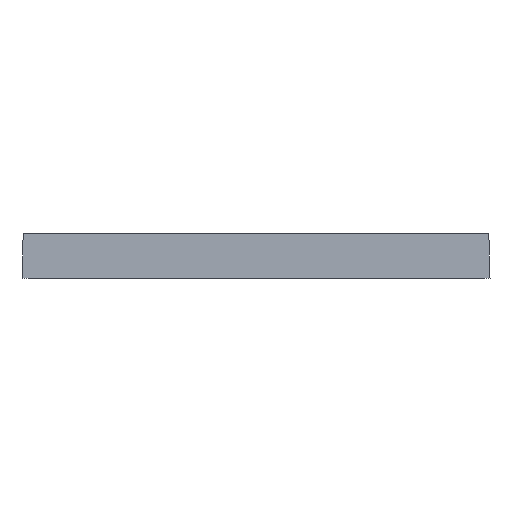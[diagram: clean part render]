
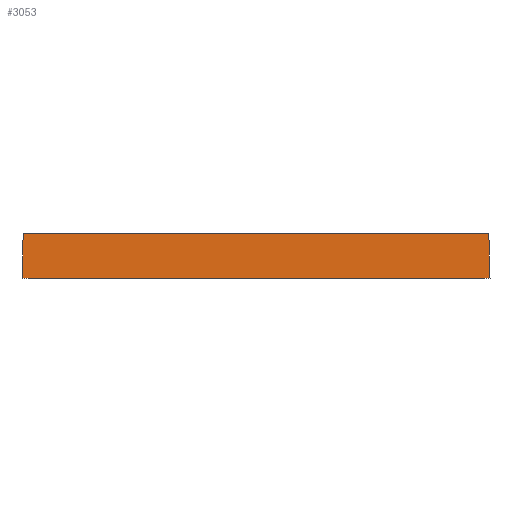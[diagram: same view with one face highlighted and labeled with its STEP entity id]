
A CAD part, front view. The second image highlights one B-rep face of the part: STEP entity #3053.
In plain terms, the highlighted planar face has unit normal (0, -1, 0.026).
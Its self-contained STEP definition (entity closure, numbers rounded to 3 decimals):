
#21 = EDGE_CURVE('',#22,#24,#26,.T.);
#22 = VERTEX_POINT('',#23);
#23 = CARTESIAN_POINT('',(1.047,1.047,40.));
#24 = VERTEX_POINT('',#25);
#25 = CARTESIAN_POINT('',(418.953,1.047,40.));
#26 = SURFACE_CURVE('',#27,(#31,#43),.PCURVE_S1.);
#27 = LINE('',#28,#29);
#28 = CARTESIAN_POINT('',(0.,1.047,40.));
#29 = VECTOR('',#30,1.);
#30 = DIRECTION('',(1.,0.,0.));
#31 = PCURVE('',#32,#37);
#32 = PLANE('',#33);
#33 = AXIS2_PLACEMENT_3D('',#34,#35,#36);
#34 = CARTESIAN_POINT('',(210.,280.,40.));
#35 = DIRECTION('',(0.,0.,1.));
#36 = DIRECTION('',(1.,0.,0.));
#37 = DEFINITIONAL_REPRESENTATION('',(#38),#42);
#38 = LINE('',#39,#40);
#39 = CARTESIAN_POINT('',(-210.,-278.953));
#40 = VECTOR('',#41,1.);
#41 = DIRECTION('',(1.,0.));
#42 = ( GEOMETRIC_REPRESENTATION_CONTEXT(2) 
PARAMETRIC_REPRESENTATION_CONTEXT() REPRESENTATION_CONTEXT('2D SPACE',''
  ) );
#43 = PCURVE('',#44,#49);
#44 = PLANE('',#45);
#45 = AXIS2_PLACEMENT_3D('',#46,#47,#48);
#46 = CARTESIAN_POINT('',(0.,0.,0.));
#47 = DIRECTION('',(0.,1.,-0.026));
#48 = DIRECTION('',(0.,0.026,1.));
#49 = DEFINITIONAL_REPRESENTATION('',(#50),#54);
#50 = LINE('',#51,#52);
#51 = CARTESIAN_POINT('',(40.014,0.));
#52 = VECTOR('',#53,1.);
#53 = DIRECTION('',(0.,1.));
#54 = ( GEOMETRIC_REPRESENTATION_CONTEXT(2) 
PARAMETRIC_REPRESENTATION_CONTEXT() REPRESENTATION_CONTEXT('2D SPACE',''
  ) );
#72 = PLANE('',#73);
#73 = AXIS2_PLACEMENT_3D('',#74,#75,#76);
#74 = CARTESIAN_POINT('',(420.,0.,0.));
#75 = DIRECTION('',(-1.,0.,-0.026));
#76 = DIRECTION('',(-0.026,0.,1.));
#126 = PLANE('',#127);
#127 = AXIS2_PLACEMENT_3D('',#128,#129,#130);
#128 = CARTESIAN_POINT('',(0.,560.,0.));
#129 = DIRECTION('',(1.,0.,-0.026));
#130 = DIRECTION('',(0.026,0.,1.));
#3053 = ADVANCED_FACE('',(#3054),#44,.F.);
#3054 = FACE_BOUND('',#3055,.F.);
#3055 = EDGE_LOOP('',(#3056,#3077,#3078,#3099));
#3056 = ORIENTED_EDGE('',*,*,#3057,.T.);
#3057 = EDGE_CURVE('',#3058,#22,#3060,.T.);
#3058 = VERTEX_POINT('',#3059);
#3059 = CARTESIAN_POINT('',(0.,0.,0.));
#3060 = SURFACE_CURVE('',#3061,(#3065,#3071),.PCURVE_S1.);
#3061 = LINE('',#3062,#3063);
#3062 = CARTESIAN_POINT('',(0.,0.,0.));
#3063 = VECTOR('',#3064,1.);
#3064 = DIRECTION('',(0.026,0.026,
    0.999));
#3065 = PCURVE('',#44,#3066);
#3066 = DEFINITIONAL_REPRESENTATION('',(#3067),#3070);
#3067 = B_SPLINE_CURVE_WITH_KNOTS('',1,(#3068,#3069),.UNSPECIFIED.,.F.,
  .F.,(2,2),(0.,40.027),.PIECEWISE_BEZIER_KNOTS.);
#3068 = CARTESIAN_POINT('',(0.,0.));
#3069 = CARTESIAN_POINT('',(40.014,1.047));
#3070 = ( GEOMETRIC_REPRESENTATION_CONTEXT(2) 
PARAMETRIC_REPRESENTATION_CONTEXT() REPRESENTATION_CONTEXT('2D SPACE',''
  ) );
#3071 = PCURVE('',#126,#3072);
#3072 = DEFINITIONAL_REPRESENTATION('',(#3073),#3076);
#3073 = B_SPLINE_CURVE_WITH_KNOTS('',1,(#3074,#3075),.UNSPECIFIED.,.F.,
  .F.,(2,2),(0.,40.027),.PIECEWISE_BEZIER_KNOTS.);
#3074 = CARTESIAN_POINT('',(0.,560.));
#3075 = CARTESIAN_POINT('',(40.014,558.953));
#3076 = ( GEOMETRIC_REPRESENTATION_CONTEXT(2) 
PARAMETRIC_REPRESENTATION_CONTEXT() REPRESENTATION_CONTEXT('2D SPACE',''
  ) );
#3077 = ORIENTED_EDGE('',*,*,#21,.T.);
#3078 = ORIENTED_EDGE('',*,*,#3079,.F.);
#3079 = EDGE_CURVE('',#3080,#24,#3082,.T.);
#3080 = VERTEX_POINT('',#3081);
#3081 = CARTESIAN_POINT('',(420.,0.,0.));
#3082 = SURFACE_CURVE('',#3083,(#3087,#3093),.PCURVE_S1.);
#3083 = LINE('',#3084,#3085);
#3084 = CARTESIAN_POINT('',(420.,0.,0.));
#3085 = VECTOR('',#3086,1.);
#3086 = DIRECTION('',(-0.026,0.026,
    0.999));
#3087 = PCURVE('',#44,#3088);
#3088 = DEFINITIONAL_REPRESENTATION('',(#3089),#3092);
#3089 = B_SPLINE_CURVE_WITH_KNOTS('',1,(#3090,#3091),.UNSPECIFIED.,.F.,
  .F.,(2,2),(0.,40.027),.PIECEWISE_BEZIER_KNOTS.);
#3090 = CARTESIAN_POINT('',(0.,420.));
#3091 = CARTESIAN_POINT('',(40.014,418.953));
#3092 = ( GEOMETRIC_REPRESENTATION_CONTEXT(2) 
PARAMETRIC_REPRESENTATION_CONTEXT() REPRESENTATION_CONTEXT('2D SPACE',''
  ) );
#3093 = PCURVE('',#72,#3094);
#3094 = DEFINITIONAL_REPRESENTATION('',(#3095),#3098);
#3095 = B_SPLINE_CURVE_WITH_KNOTS('',1,(#3096,#3097),.UNSPECIFIED.,.F.,
  .F.,(2,2),(0.,40.027),.PIECEWISE_BEZIER_KNOTS.);
#3096 = CARTESIAN_POINT('',(0.,0.));
#3097 = CARTESIAN_POINT('',(40.014,1.047));
#3098 = ( GEOMETRIC_REPRESENTATION_CONTEXT(2) 
PARAMETRIC_REPRESENTATION_CONTEXT() REPRESENTATION_CONTEXT('2D SPACE',''
  ) );
#3099 = ORIENTED_EDGE('',*,*,#3100,.F.);
#3100 = EDGE_CURVE('',#3058,#3080,#3101,.T.);
#3101 = SURFACE_CURVE('',#3102,(#3106,#3113),.PCURVE_S1.);
#3102 = LINE('',#3103,#3104);
#3103 = CARTESIAN_POINT('',(0.,0.,0.));
#3104 = VECTOR('',#3105,1.);
#3105 = DIRECTION('',(1.,0.,0.));
#3106 = PCURVE('',#44,#3107);
#3107 = DEFINITIONAL_REPRESENTATION('',(#3108),#3112);
#3108 = LINE('',#3109,#3110);
#3109 = CARTESIAN_POINT('',(0.,0.));
#3110 = VECTOR('',#3111,1.);
#3111 = DIRECTION('',(0.,1.));
#3112 = ( GEOMETRIC_REPRESENTATION_CONTEXT(2) 
PARAMETRIC_REPRESENTATION_CONTEXT() REPRESENTATION_CONTEXT('2D SPACE',''
  ) );
#3113 = PCURVE('',#3114,#3119);
#3114 = PLANE('',#3115);
#3115 = AXIS2_PLACEMENT_3D('',#3116,#3117,#3118);
#3116 = CARTESIAN_POINT('',(210.,280.,0.));
#3117 = DIRECTION('',(0.,0.,1.));
#3118 = DIRECTION('',(1.,0.,0.));
#3119 = DEFINITIONAL_REPRESENTATION('',(#3120),#3124);
#3120 = LINE('',#3121,#3122);
#3121 = CARTESIAN_POINT('',(-210.,-280.));
#3122 = VECTOR('',#3123,1.);
#3123 = DIRECTION('',(1.,0.));
#3124 = ( GEOMETRIC_REPRESENTATION_CONTEXT(2) 
PARAMETRIC_REPRESENTATION_CONTEXT() REPRESENTATION_CONTEXT('2D SPACE',''
  ) );
